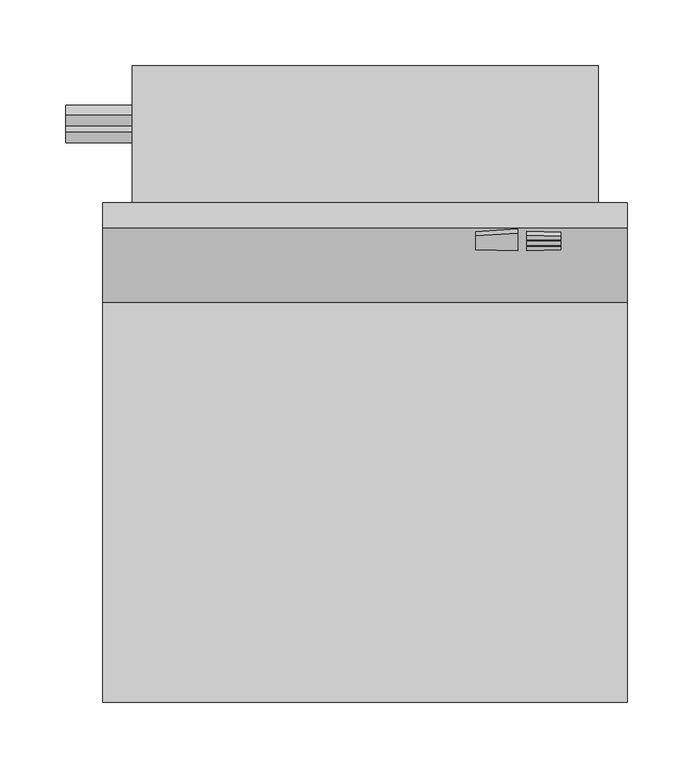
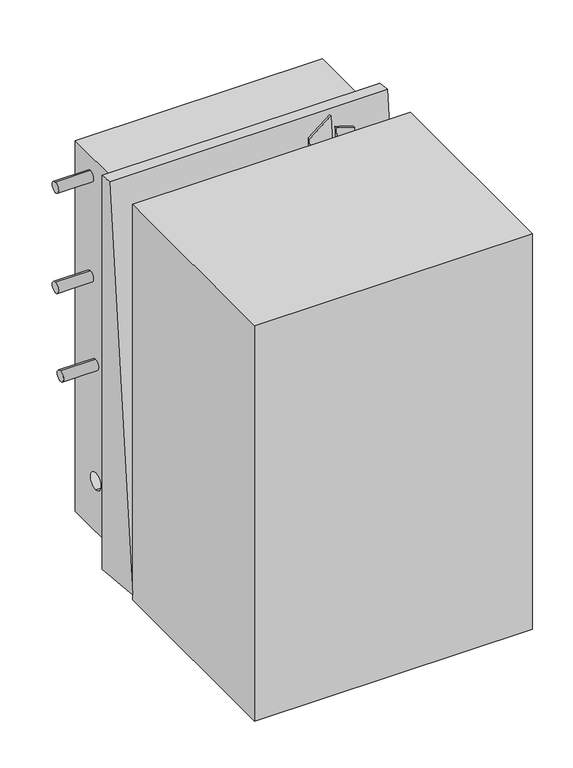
"""IFC4 building model written with IfcOpenShell, lengths in millimetres: proxy geometry, Exposed_Wall_Mounted_Fan_Coil_Unit_-_STY_-_IEC_-_2-Pipe_LH_2022 : Size 01 - 115V/60Hz/1Ph - 2 Row Coil."""

from ifc_helpers import new_model, si_unit, point, frame, frame_2d, origin, origin_with_axes, place, context, project, spatial, polyline, circle_curve, trimmed, segment, composite_curve, outline, extrude, source, transform, mapped, element, save
from ifc_brep_helpers import plane_surface, revolved_surface, advanced_brep


def mechanical_equipment_e7c3ba8e(model_context):
    return source(origin(), model_context, "Body", "SolidModel", [
        extrude(outline(polyline([(0.0, 0.0), (32.2582589, -104.3275129), (8.3214524, -135.826225), (-33.6762663, 0.0), (0.0, 0.0)])), frame((935.1118862, -375.3885352, 461.2981442), z_axis=(0.0, -0.9953961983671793, 0.09584575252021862), x_axis=(-0.9553727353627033, 0.028313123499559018, 0.2940430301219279)), (0.0, 0.0, 1.0), 3.175),
        extrude(outline(polyline([(-13.857677, -86.9743105), (-3.7871334, -119.543792), (-31.0868387, -119.543792), (-39.7211263, -91.6193542), (-13.857677, -86.9743105)])), frame((935.1118862, -375.3885352, 461.2981442), z_axis=(0.0, -0.9953961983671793, 0.09584575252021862), x_axis=(-0.9553727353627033, 0.028313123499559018, 0.2940430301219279)), (0.0, 0.0, 1.0), 3.175),
        extrude(outline(polyline([(-54.0957717, -45.1298332), (-62.4998666, -17.9498691), (-40.1329933, -1.9964319), (-30.2611188, -33.9233912), (-54.0957717, -45.1298332)])), frame((935.1118862, -375.3885352, 461.2981442), z_axis=(0.0, -0.9953961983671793, 0.09584575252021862), x_axis=(-0.9553727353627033, 0.028313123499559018, 0.2940430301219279)), (0.0, 0.0, 1.0), 3.175),
        extrude(outline(polyline([(-42.4819548, -82.6904665), (-51.6141784, -53.155637), (-27.5065034, -42.8321849), (-16.8904435, -77.1659389), (-42.4819548, -82.6904665)])), frame((935.1118862, -375.3885352, 461.2981442), z_axis=(0.0, -0.9953961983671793, 0.09584575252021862), x_axis=(-0.9553727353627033, 0.028313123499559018, 0.2940430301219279)), (0.0, 0.0, 1.0), 3.175),
        advanced_brep(
        [(1028.7, -342.9, 581.025), (1028.7, -342.9, 17.4625), (1028.7, -238.125, 17.4625), (1028.7, -238.125, 581.025), (673.1, -342.9, 581.025), (673.1, -238.125, 581.025), (673.1, -238.125, 17.4625), (673.1, -342.9, 17.4625), (673.1, -288.925, 80.9625), (673.1, -288.925, 106.3625), (685.8, -288.925, 80.9625), (685.8, -288.925, 106.3625)],
        [
            (0, 1),
            (1, 2),
            (2, 3),
            (3, 0),
            (4, 5),
            (5, 6),
            (6, 7),
            (7, 4),
            (8, 9, circle_curve(frame((673.1, -288.925, 93.6625), z_axis=(1.0, 0.0, 0.0), x_axis=(0.0, 0.0, 1.0)), 12.7)),
            (9, 8, circle_curve(frame((673.1, -288.925, 93.6625), z_axis=(1.0, 0.0, 0.0), x_axis=(0.0, 0.0, 1.0)), 12.7)),
            (0, 4),
            (7, 1),
            (6, 2),
            (5, 3),
            (10, 11, circle_curve(frame((685.8, -288.925, 93.6625), z_axis=(-1.0, 0.0, 0.0), x_axis=(0.0, 0.0, 1.0)), 12.7)),
            (11, 10, circle_curve(frame((685.8, -288.925, 93.6625), z_axis=(-1.0, 0.0, 0.0), x_axis=(0.0, 0.0, 1.0)), 12.7)),
            (11, 9),
            (8, 10),
        ],
        [
            plane_surface(frame((1028.7, -342.9, 581.025), z_axis=(1.0, 0.0, 0.0), x_axis=(0.0, 0.0, -1.0))),
            plane_surface(frame((673.1, -342.9, 581.025), z_axis=(-1.0, 0.0, 0.0), x_axis=(0.0, 0.0, 1.0))),
            plane_surface(frame((1028.7, -342.9, 581.025), z_axis=(0.0, -1.0, 0.0), x_axis=(-1.0, 0.0, 0.0))),
            plane_surface(frame((1028.7, -342.9, 17.4625), z_axis=(0.0, 0.0, -1.0), x_axis=(-1.0, 0.0, 0.0))),
            plane_surface(frame((1028.7, -238.125, 17.4625), z_axis=(0.0, 1.0, 0.0), x_axis=(-1.0, 0.0, 0.0))),
            plane_surface(frame((1028.7, -238.125, 581.025), z_axis=(0.0, 0.0, 1.0), x_axis=(-1.0, 0.0, 0.0))),
            plane_surface(frame((685.8, -288.925, 106.3625), z_axis=(-1.0, 0.0, 0.0), x_axis=(0.0, -1.0, 0.0))),
            revolved_surface(polyline([(685.8, -288.925, 106.3625), (673.1, -288.925, 106.3625)]), (673.1, -288.925, 93.6625), (1.0, 0.0, 0.0)),
        ],
        [
            (0, [[1, 2, 3, 4]]),
            (1, [[5, 6, 7, 8], [9, 10]]),
            (2, [[-1, 11, -8, 12]]),
            (3, [[-2, -12, -7, 13]]),
            (4, [[-3, -13, -6, 14]]),
            (5, [[-4, -14, -5, -11]]),
            (6, [[15, 16]]),
            (7, [[-16, 17, -9, 18]]),
            (7, [[-15, -18, -10, -17]]),
        ],
    ),
        extrude(outline(polyline([(-342.9, 599.8356093), (-342.9, 0.0), (-419.1, 7.3372255), (-361.872985, 601.6625), (-342.9, 599.8356093)])), frame((650.875, 0.0, 0.0), z_axis=(1.0, 0.0, 0.0), x_axis=(0.0, 1.0, 0.0)), (0.0, 0.0, 1.0), 400.05),
        extrude(outline(composite_curve([segment(trimmed(circle_curve(frame_2d((-276.225, 550.8625)), 7.9375), [point((-276.225, 558.8))], [point((-276.225, 542.925))], False, "CARTESIAN"), True, "CONTINUOUS"), segment(trimmed(circle_curve(frame_2d((-276.225, 550.8625)), 7.9375), [point((-276.225, 542.925))], [point((-276.225, 558.8))], False, "CARTESIAN"), True, "CONTINUOUS")], self_intersect=False)), frame((622.3, 0.0, 0.0), z_axis=(1.0, 0.0, 0.0), x_axis=(0.0, 1.0, 0.0)), (0.0, 0.0, 1.0), 50.8),
        extrude(outline(composite_curve([segment(trimmed(circle_curve(frame_2d((-276.225, 398.4625)), 7.9375), [point((-276.225, 406.4))], [point((-276.225, 390.525))], False, "CARTESIAN"), True, "CONTINUOUS"), segment(trimmed(circle_curve(frame_2d((-276.225, 398.4625)), 7.9375), [point((-276.225, 390.525))], [point((-276.225, 406.4))], False, "CARTESIAN"), True, "CONTINUOUS")], self_intersect=False)), frame((622.3, 0.0, 0.0), z_axis=(1.0, 0.0, 0.0), x_axis=(0.0, 1.0, 0.0)), (0.0, 0.0, 1.0), 50.8),
        extrude(outline(composite_curve([segment(trimmed(circle_curve(frame_2d((-288.925, 271.4625)), 7.9375), [point((-288.925, 279.4))], [point((-288.925, 263.525))], False, "CARTESIAN"), True, "CONTINUOUS"), segment(trimmed(circle_curve(frame_2d((-288.925, 271.4625)), 7.9375), [point((-288.925, 263.525))], [point((-288.925, 279.4))], False, "CARTESIAN"), True, "CONTINUOUS")], self_intersect=False)), frame((622.3, 0.0, 0.0), z_axis=(1.0, 0.0, 0.0), x_axis=(0.0, 1.0, 0.0)), (0.0, 0.0, 1.0), 50.8),
        extrude(outline(polyline([(1050.925, -419.1), (1050.925, -723.9), (650.875, -723.9), (650.875, -419.1), (1050.925, -419.1)])), origin_with_axes(), (0.0, 0.0, 1.0), 601.6625),
    ])


if __name__ == "__main__":
    model = new_model("IFC4")
    model_context = context("Model", 3, world=origin())
    ifc_project = project(units=[si_unit("LENGTHUNIT", "METRE", prefix="MILLI")], contexts=[model_context])
    site = spatial("IfcSite", under=ifc_project)
    building = spatial("IfcBuilding", under=site)
    placement = place(None, origin())
    mechanical_equipment_shape = mechanical_equipment_e7c3ba8e(model_context)
    element("IfcBuildingElementProxy", 1, Name="Exposed_Wall_Mounted_Fan_Coil_Unit_-_STY_-_IEC_-_2-Pipe_LH_2022 : Size 01 - 115V/60Hz/1Ph - 2 Row Coil", ObjectType="Exposed_Wall_Mounted_Fan_Coil_Unit_-_STY_-_IEC_-_2-Pipe_LH_2022 : Size 01 - 115V/60Hz/1Ph - 2 Row Coil", at=placement, inside=building, context=model_context, shape_type="MappedRepresentation", body=[
        mapped(mechanical_equipment_shape, transform((0.0, 0.0, 0.0), x_axis=(1.0, 0.0, 0.0), y_axis=(0.0, 1.0, 0.0), z_axis=(0.0, 0.0, 1.0))),
    ])
    save(model, "model.ifc")
